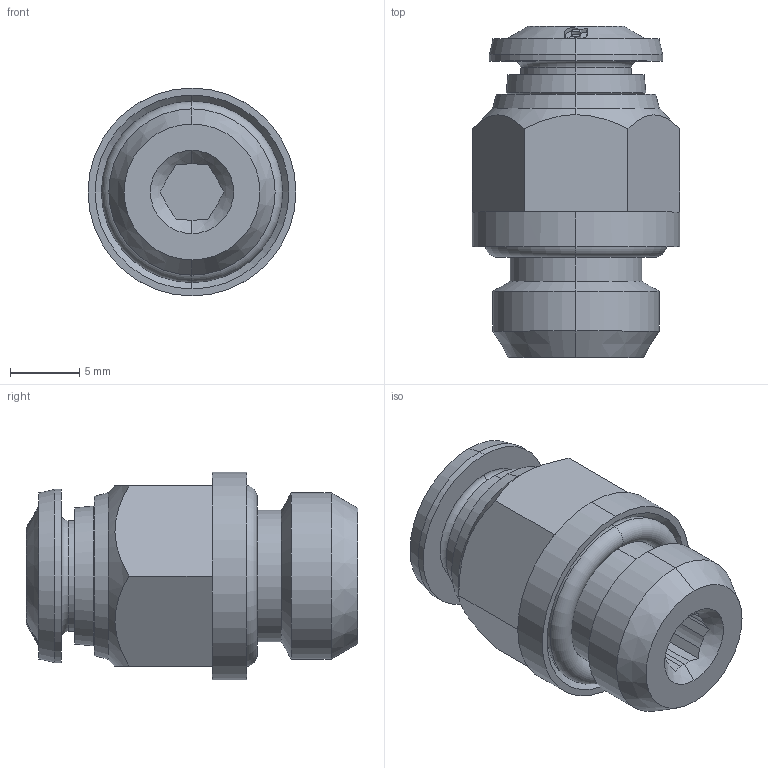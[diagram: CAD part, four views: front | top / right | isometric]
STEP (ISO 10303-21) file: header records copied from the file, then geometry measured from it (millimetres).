
FILE_DESCRIPTION (( 'STEP AP214' ), '1' );
FILE_NAME ('5002000014.step', '2012-10-01T16:41:01', ( '' ), ( '' ), 'SwSTEP 2.0', 'SolidWorks 2012', '' );
FILE_SCHEMA (( 'AUTOMOTIVE_DESIGN' ));
Length unit declared in the file: millimetre
Products named in the file (1): 5002000014
Bounding box: 15.01 x 23.9 x 15 mm (x, y, z)
Volume: 2481.5 mm3; surface area: 1978.7 mm2
Topology: 1 solids, 3 shells, 174 faces, 417 edges, 261 vertices
Faces by surface type: bspline 46, plane 44, cone 37, cylinder 31, torus 16
Entity records: 9402 total; most frequent: CARTESIAN_POINT 3779, ORIENTED_EDGE 834, DIRECTION 636, EDGE_CURVE 417, AXIS2_PLACEMENT_3D 262, VERTEX_POINT 261, EDGE_LOOP 190, UNCERTAINTY_MEASURE_WITH_UNIT 177
